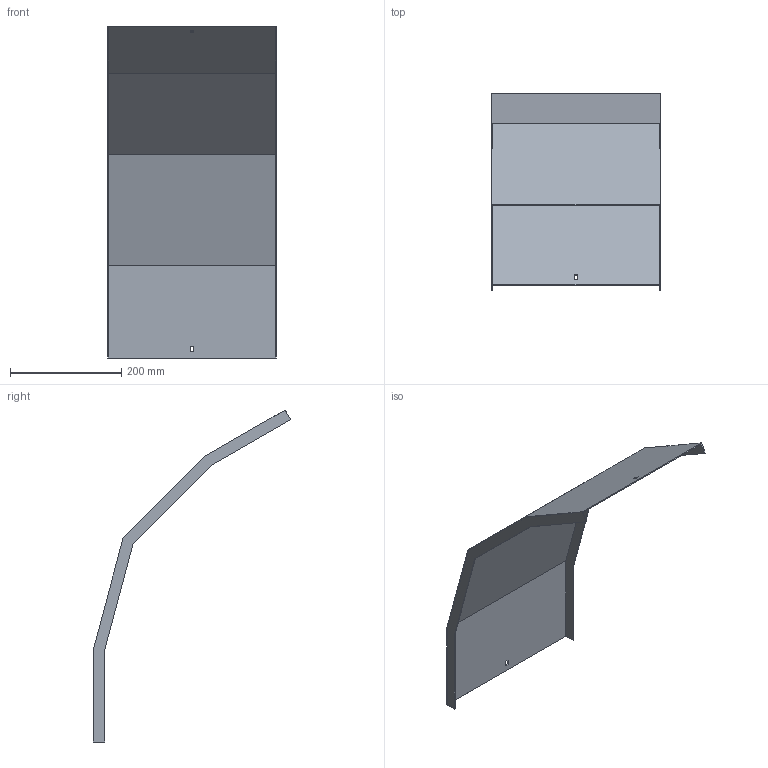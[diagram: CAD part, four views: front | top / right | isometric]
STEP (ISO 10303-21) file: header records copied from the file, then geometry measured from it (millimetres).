
FILE_DESCRIPTION (( 'STEP AP214' ), '1' );
FILE_NAME ('A2_41N3J300.step', '2025-02-21T10:40:33', ( '' ), ( '' ), 'SwSTEP 2.0', 'SolidWorks 2023', '' );
FILE_SCHEMA (( 'AUTOMOTIVE_DESIGN' ));
Length unit declared in the file: millimetre
Products named in the file (1): A2_41N3J300
Bounding box: 303 x 354.25 x 596.25 mm (x, y, z)
Volume: 379926 mm3; surface area: 509861.4 mm2
Topology: 1 solids, 1 shells, 30 faces, 84 edges, 56 vertices
Faces by surface type: plane 30
Entity records: 979 total; most frequent: CARTESIAN_POINT 171, ORIENTED_EDGE 168, DIRECTION 146, EDGE_CURVE 84, VECTOR 84, LINE 84, VERTEX_POINT 56, EDGE_LOOP 34
